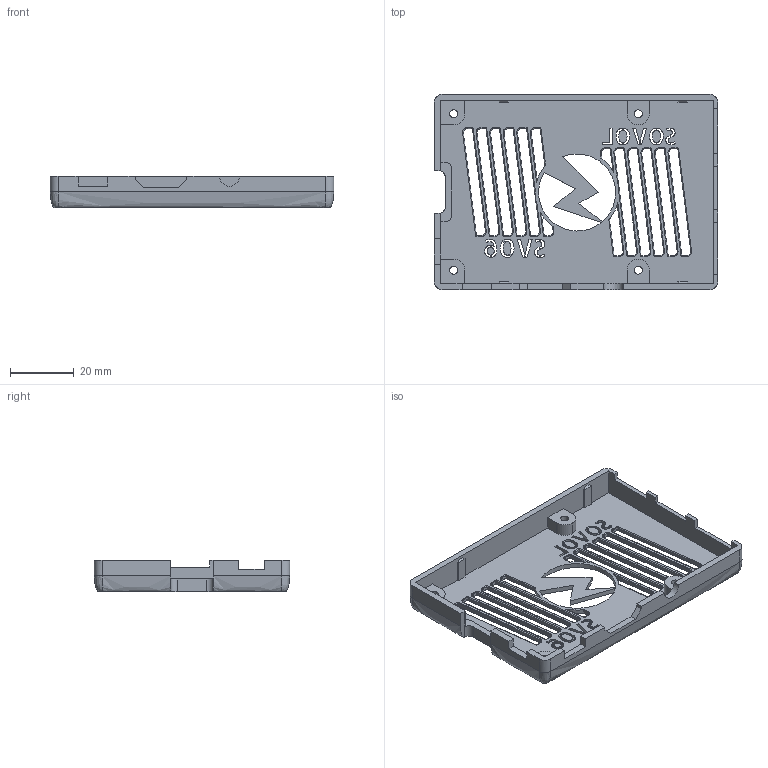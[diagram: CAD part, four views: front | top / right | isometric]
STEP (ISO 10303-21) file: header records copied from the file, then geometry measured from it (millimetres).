
FILE_DESCRIPTION(/* description */ ('STEP AP242','CAx-IF Rec.Pracs.---Representation and Presentation of Product Manufacturing Information (PMI)---4.0---2014-10-13','CAx-IF Rec.Pracs.---3D Tessellated Geometry---0.4---2014-09-14','2;1'),/* implementation_level */ '2;1');
FILE_NAME(/* name */ '65281c2f3e077a3ef37d312c',/* time_stamp */ '2023-10-12T16:17:53Z',/* author */ (''),/* organization */ (''),/* preprocessor_version */ 'ST-DEVELOPER v19.4',/* originating_system */ ' ',/* authorisation */ ' ');
FILE_SCHEMA (('AP242_MANAGED_MODEL_BASED_3D_ENGINEERING_MIM_LF { 1 0 10303 442 1 1 4 }'));
Length unit declared in the file: metre
Products named in the file (1): base
Bounding box: 89.03 x 61.33 x 9.87 mm (x, y, z)
Volume: 10129.5 mm3; surface area: 14189.3 mm2
Topology: 1 solids, 1 shells, 707 faces, 1907 edges, 1201 vertices
Faces by surface type: bspline 225, plane 207, cylinder 182, torus 89, cone 4
Full cylindrical faces by diameter (mm): 2.5 x4
Entity records: 23182 total; most frequent: CARTESIAN_POINT 6655, ORIENTED_EDGE 3796, DIRECTION 2811, EDGE_CURVE 1898, VERTEX_POINT 1201, LINE 987, VECTOR 987, AXIS2_PLACEMENT_3D 912
